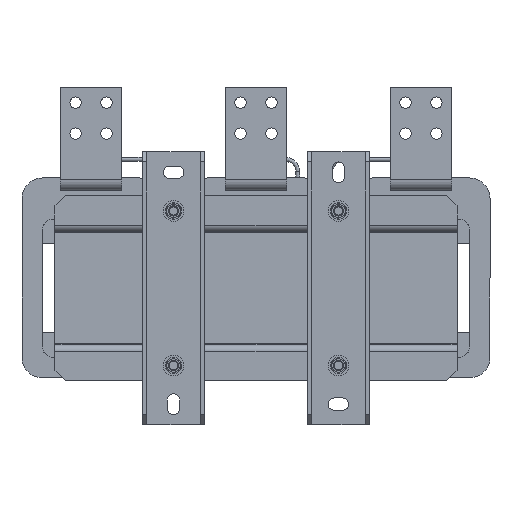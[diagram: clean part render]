
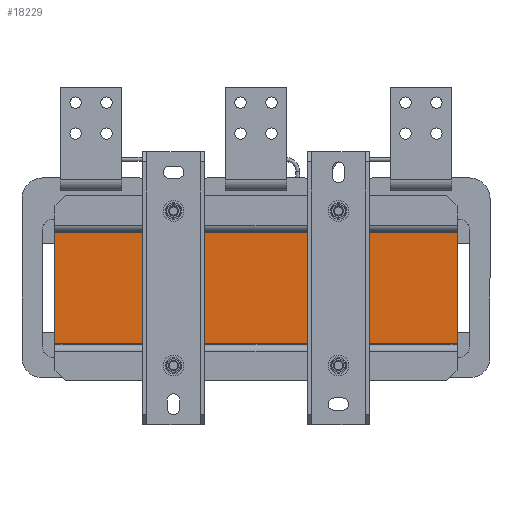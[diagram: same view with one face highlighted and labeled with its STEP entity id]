
A CAD part, front view. The second image highlights one B-rep face of the part: STEP entity #18229.
In plain terms, the highlighted planar face has unit normal (0, -1, 0).
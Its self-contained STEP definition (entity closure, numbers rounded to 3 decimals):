
#1441 = VERTEX_POINT ( 'NONE', #43639 ) ;
#1517 = EDGE_LOOP ( 'NONE', ( #18069, #28978, #43810, #33335 ) ) ;
#3029 = CARTESIAN_POINT ( 'NONE',  ( 0., -210., 0. ) ) ;
#6176 = DIRECTION ( 'NONE',  ( 0., 0., 1. ) ) ;
#6570 = LINE ( 'NONE', #40790, #22584 ) ;
#8978 = PLANE ( 'NONE',  #39075 ) ;
#15054 = CARTESIAN_POINT ( 'NONE',  ( 195., -210., 0. ) ) ;
#15264 = DIRECTION ( 'NONE',  ( 0., 1., 0. ) ) ;
#17846 = DIRECTION ( 'NONE',  ( 1., 0., 0. ) ) ;
#17867 = EDGE_CURVE ( 'NONE', #35404, #23796, #24421, .T. ) ;
#17922 = LINE ( 'NONE', #3029, #34662 ) ;
#18069 = ORIENTED_EDGE ( 'NONE', *, *, #17867, .T. ) ;
#18229 = ADVANCED_FACE ( 'NONE', ( #44985 ), #8978, .F. ) ;
#19848 = EDGE_CURVE ( 'NONE', #1441, #23796, #6570, .T. ) ;
#21507 = DIRECTION ( 'NONE',  ( 1., 0., 0. ) ) ;
#21730 = VECTOR ( 'NONE', #6176, 1000. ) ;
#22584 = VECTOR ( 'NONE', #17846, 1000. ) ;
#23161 = VECTOR ( 'NONE', #38860, 1000. ) ;
#23796 = VERTEX_POINT ( 'NONE', #29652 ) ;
#24421 = LINE ( 'NONE', #39073, #21730 ) ;
#27244 = DIRECTION ( 'NONE',  ( -1., 0., 0. ) ) ;
#27847 = VERTEX_POINT ( 'NONE', #39935 ) ;
#28774 = EDGE_CURVE ( 'NONE', #27847, #35404, #17922, .T. ) ;
#28978 = ORIENTED_EDGE ( 'NONE', *, *, #19848, .F. ) ;
#29652 = CARTESIAN_POINT ( 'NONE',  ( 195., -210., 108. ) ) ;
#31189 = LINE ( 'NONE', #46031, #23161 ) ;
#33335 = ORIENTED_EDGE ( 'NONE', *, *, #28774, .T. ) ;
#34662 = VECTOR ( 'NONE', #21507, 1000. ) ;
#35121 = EDGE_CURVE ( 'NONE', #27847, #1441, #31189, .T. ) ;
#35404 = VERTEX_POINT ( 'NONE', #15054 ) ;
#37108 = CARTESIAN_POINT ( 'NONE',  ( -195., -210., 108. ) ) ;
#38860 = DIRECTION ( 'NONE',  ( 0., 0., 1. ) ) ;
#39073 = CARTESIAN_POINT ( 'NONE',  ( 195., -210., 108. ) ) ;
#39075 = AXIS2_PLACEMENT_3D ( 'NONE', #37108, #15264, #27244 ) ;
#39935 = CARTESIAN_POINT ( 'NONE',  ( -195., -210., 0. ) ) ;
#40790 = CARTESIAN_POINT ( 'NONE',  ( -195., -210., 108. ) ) ;
#43639 = CARTESIAN_POINT ( 'NONE',  ( -195., -210., 108. ) ) ;
#43810 = ORIENTED_EDGE ( 'NONE', *, *, #35121, .F. ) ;
#44985 = FACE_OUTER_BOUND ( 'NONE', #1517, .T. ) ;
#46031 = CARTESIAN_POINT ( 'NONE',  ( -195., -210., 108. ) ) ;
